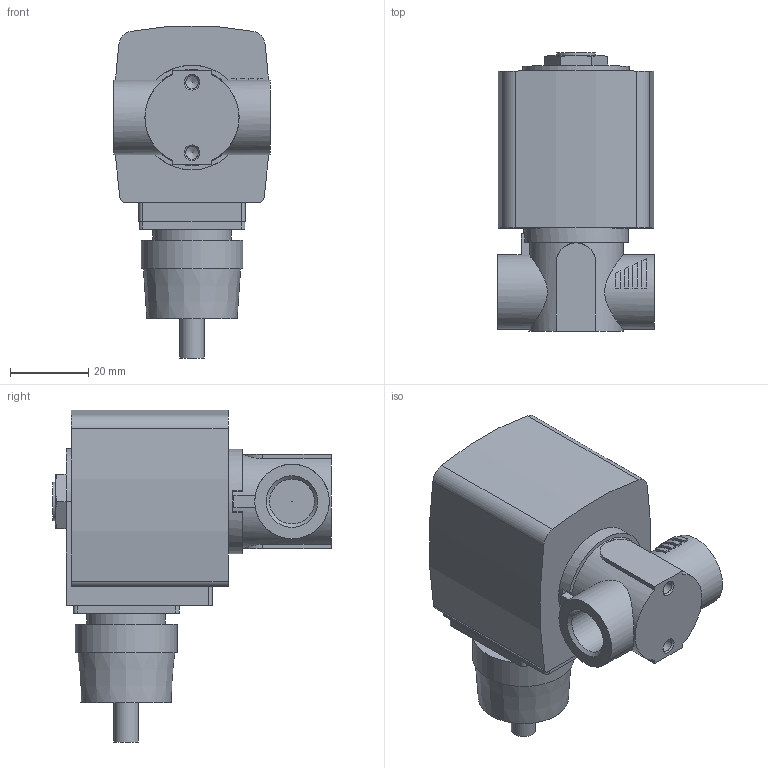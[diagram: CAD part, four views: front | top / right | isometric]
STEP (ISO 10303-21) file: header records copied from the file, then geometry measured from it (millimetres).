
FILE_DESCRIPTION(/* description */ ('STEP AP214'),/* implementation_level */ '2;1');
FILE_NAME(/* name */ '6240-371831-2_2-way_solenoid_valve__pilot-controlled',/* time_stamp */ '2024-05-09T06:31:53+02:00',/* author */ ('License CC BY-ND 4.0'),/* organization */ ('CADENAS'),/* preprocessor_version */ 'ST-DEVELOPER v19.3',/* originating_system */ 'PARTsolutions',/* authorisation */ ' ');
FILE_SCHEMA (('AUTOMOTIVE_DESIGN {1 0 10303 214 3 1 1}'));
Length unit declared in the file: millimetre
Products named in the file (3): 6240-371831-2/2-way solenoid valve, pilot-controlled; 6240-Gehaeuse-2/2-Wege-Magnetventil, vorgesteuert StandardG1/46VA; AC10ex-6ATEXKabelPlan-Coil
Assembly tree (2 placements, depth 2):
  6240-371831-2/2-way solenoid valve, pilot-controlled
    6240-Gehaeuse-2/2-Wege-Magnetventil, vorgesteuert StandardG1/46VA
    AC10ex-6ATEXKabelPlan-Coil
Bounding box: 40 x 71 x 84.63 mm (x, y, z)
Volume: 102411.5 mm3; surface area: 19021.2 mm2
Topology: 2 solids, 2 shells, 113 faces, 268 edges, 175 vertices
Faces by surface type: plane 64, cylinder 36, cone 13
Full cylindrical faces by diameter (mm): 0.2 x1, 3.242 x2, 6.2 x1, 9.74 x1, 11.445 x2, 19 x2, 20 x1, 24 x1, 24.5 x1, 26 x1, 26.65 x1
Entity records: 4021 total; most frequent: CARTESIAN_POINT 624, DIRECTION 551, ORIENTED_EDGE 476, EDGE_CURVE 238, AXIS2_PLACEMENT_3D 215, VERTEX_POINT 168, FACE_BOUND 154, EDGE_LOOP 152
